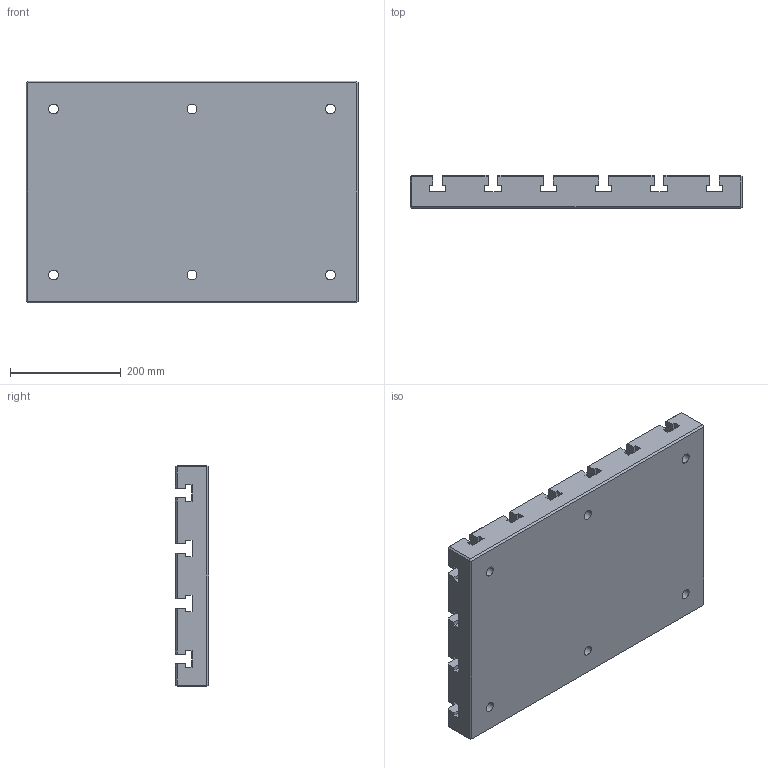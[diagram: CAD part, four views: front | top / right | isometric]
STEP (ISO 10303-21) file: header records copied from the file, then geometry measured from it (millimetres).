
FILE_DESCRIPTION((''),'2;1');
FILE_NAME('FG_WH_BASPL_RCT18NP001','2026-05-17T11:17:15',('Admin'),(''),'CREO PARAMETRIC BY PTC INC, 2025010','CREO PARAMETRIC BY PTC INC, 2025010','');
FILE_SCHEMA(('CONFIG_CONTROL_DESIGN'));
Length unit declared in the file: millimetre
Products named in the file (1): FG_WH_BASPL_RCT18NP001
Bounding box: 600 x 60 x 400 mm (x, y, z)
Volume: 11428340.8 mm3; surface area: 897860.7 mm2
Topology: 1 solids, 1 shells, 402 faces, 1076 edges, 712 vertices
Faces by surface type: plane 358, cylinder 44
Entity records: 12402 total; most frequent: CARTESIAN_POINT 2190, ORIENTED_EDGE 2152, DIRECTION 1968, EDGE_CURVE 1076, VECTOR 988, LINE 988, VERTEX_POINT 712, AXIS2_PLACEMENT_3D 490
